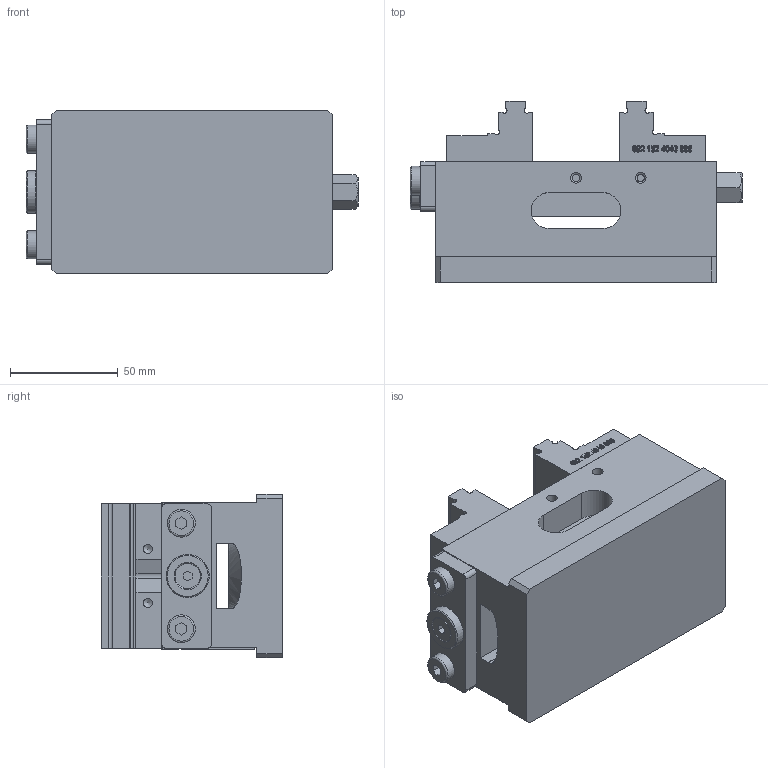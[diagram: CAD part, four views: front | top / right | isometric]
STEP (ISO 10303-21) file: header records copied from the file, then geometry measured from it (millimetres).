
FILE_DESCRIPTION (( 'STEP AP214' ), '1' );
FILE_NAME ('3D-6921528001055.STEP', '2023-12-01T10:30:21', ( '' ), ( '' ), 'SwSTEP 2.0', 'SolidWorks 2021', '' );
FILE_SCHEMA (( 'AUTOMOTIVE_DESIGN' ));
Length unit declared in the file: millimetre
Products named in the file (4): 3D-6921528001055; 3D-6921524030000; 3D-6921524040000; 3D-692152800x055
Assembly tree (3 placements, depth 2):
  3D-6921528001055
    3D-692152800x055
    3D-6921524030000
    3D-6921524040000
Bounding box: 154 x 84 x 76 mm (x, y, z)
Volume: 567381.9 mm3; surface area: 81801.9 mm2
Topology: 3 solids, 3 shells, 1254 faces, 3321 edges, 2205 vertices
Faces by surface type: plane 685, bspline 510, cylinder 37, cone 20, torus 2
Full cylindrical faces by diameter (mm): 4.2 x8, 5 x6, 11.6 x1, 13 x2, 17.5 x1, 20 x1
Entity records: 64509 total; most frequent: CARTESIAN_POINT 36664, ORIENTED_EDGE 6530, DIRECTION 3832, EDGE_CURVE 3265, VERTEX_POINT 2190, VECTOR 2144, LINE 2144, EDGE_LOOP 1441
